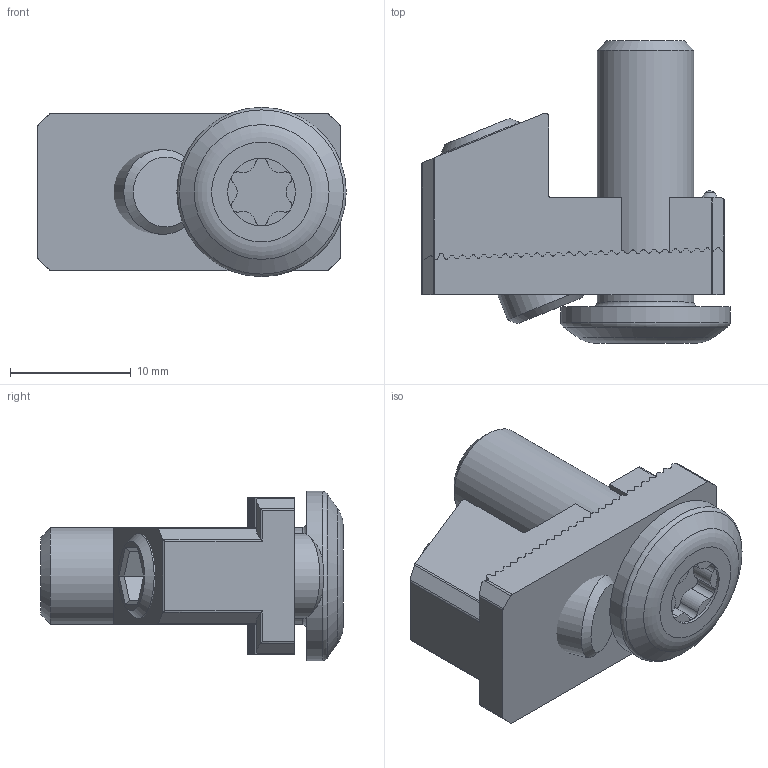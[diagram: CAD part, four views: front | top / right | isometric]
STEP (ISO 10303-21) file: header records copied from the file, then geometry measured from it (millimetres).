
FILE_DESCRIPTION(/* description */ ('STEP AP203'),/* implementation_level */ '2;1');
FILE_NAME(/* name */ '099J08M08S03',/* time_stamp */ '2026-05-11T14:00:09+02:00',/* author */ ('License CC BY-ND 4.0'),/* organization */ ('CADENAS'),/* preprocessor_version */ 'ST-DEVELOPER v20',/* originating_system */ 'PARTsolutions',/* authorisation */ ' ');
FILE_SCHEMA (('CONFIG_CONTROL_DESIGN'));
Length unit declared in the file: millimetre
Products named in the file (4): 099J08M08S03; 099J08M08S03-1; 099J08M08S03-2; 099J08M08S03-3
Assembly tree (3 placements, depth 2):
  099J08M08S03
    099J08M08S03-1
    099J08M08S03-2
    099J08M08S03-3
Bounding box: 25.5 x 25 x 14 mm (x, y, z)
Volume: 3623.6 mm3; surface area: 3067.7 mm2
Topology: 3 solids, 3 shells, 328 faces, 938 edges, 619 vertices
Faces by surface type: cylinder 158, plane 157, torus 6, cone 6, sphere 1
Full cylindrical faces by diameter (mm): 5.6 x1, 5.92 x1, 7 x1, 8 x1, 8.1 x1, 14 x1
Entity records: 10784 total; most frequent: CARTESIAN_POINT 1962, DIRECTION 1878, ORIENTED_EDGE 1836, EDGE_CURVE 918, AXIS2_PLACEMENT_3D 660, VERTEX_POINT 616, LINE 558, VECTOR 558
